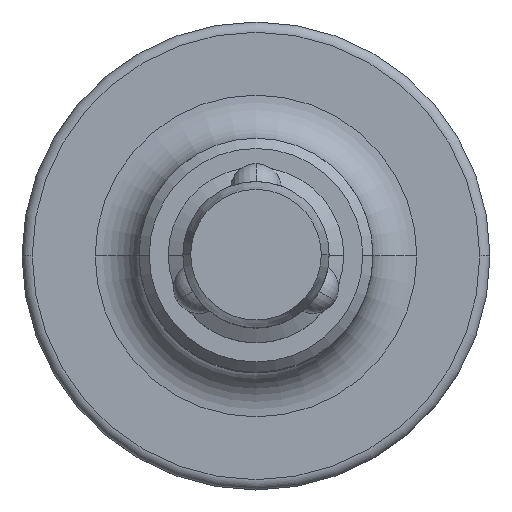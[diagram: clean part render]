
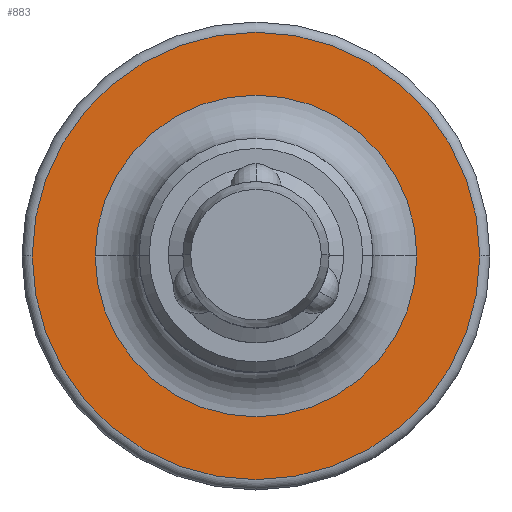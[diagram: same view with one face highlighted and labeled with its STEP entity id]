
A CAD part, top view. The second image highlights one B-rep face of the part: STEP entity #883.
In plain terms, the highlighted planar face has unit normal (0, 0, 1).
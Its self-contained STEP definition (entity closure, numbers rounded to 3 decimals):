
#24 = DIRECTION ( 'NONE',  ( 0., 0., 1. ) ) ;
#30 = CARTESIAN_POINT ( 'NONE',  ( 15.3, 0., -29. ) ) ;
#112 = CARTESIAN_POINT ( 'NONE',  ( 0., 0., -29. ) ) ;
#235 = DIRECTION ( 'NONE',  ( 1., 0., 0. ) ) ;
#311 = CARTESIAN_POINT ( 'NONE',  ( 0., 0., -29. ) ) ;
#339 = ORIENTED_EDGE ( 'NONE', *, *, #1343, .F. ) ;
#377 = CIRCLE ( 'NONE', #1008, 15.3 ) ;
#418 = VERTEX_POINT ( 'NONE', #445 ) ;
#442 = CARTESIAN_POINT ( 'NONE',  ( 0., 11., -29. ) ) ;
#445 = CARTESIAN_POINT ( 'NONE',  ( -11., 0., -29. ) ) ;
#605 = CARTESIAN_POINT ( 'NONE',  ( 0., 0., -29. ) ) ;
#665 = EDGE_LOOP ( 'NONE', ( #1223, #339 ) ) ;
#721 = CARTESIAN_POINT ( 'NONE',  ( 0., 0., -29. ) ) ;
#744 = DIRECTION ( 'NONE',  ( 1., 0., 0. ) ) ;
#747 = DIRECTION ( 'NONE',  ( -1., 0., 0. ) ) ;
#749 = CIRCLE ( 'NONE', #1287, 11. ) ;
#769 = CIRCLE ( 'NONE', #1051, 15.3 ) ;
#883 = ADVANCED_FACE ( 'NONE', ( #1626, #1033 ), #1190, .F. ) ;
#892 = AXIS2_PLACEMENT_3D ( 'NONE', #442, #1040, #910 ) ;
#905 = DIRECTION ( 'NONE',  ( -1., 0., 0. ) ) ;
#910 = DIRECTION ( 'NONE',  ( -1., 0., 0. ) ) ;
#917 = EDGE_LOOP ( 'NONE', ( #1746, #1852 ) ) ;
#930 = VERTEX_POINT ( 'NONE', #1776 ) ;
#940 = AXIS2_PLACEMENT_3D ( 'NONE', #112, #1141, #235 ) ;
#958 = VERTEX_POINT ( 'NONE', #30 ) ;
#1008 = AXIS2_PLACEMENT_3D ( 'NONE', #311, #24, #747 ) ;
#1027 = EDGE_CURVE ( 'NONE', #930, #418, #749, .T. ) ;
#1033 = FACE_BOUND ( 'NONE', #665, .T. ) ;
#1040 = DIRECTION ( 'NONE',  ( 0., 0., -1. ) ) ;
#1051 = AXIS2_PLACEMENT_3D ( 'NONE', #605, #1621, #905 ) ;
#1141 = DIRECTION ( 'NONE',  ( 0., 0., 1. ) ) ;
#1190 = PLANE ( 'NONE',  #892 ) ;
#1223 = ORIENTED_EDGE ( 'NONE', *, *, #1027, .F. ) ;
#1287 = AXIS2_PLACEMENT_3D ( 'NONE', #721, #1615, #744 ) ;
#1343 = EDGE_CURVE ( 'NONE', #418, #930, #1775, .T. ) ;
#1453 = EDGE_CURVE ( 'NONE', #958, #1619, #769, .T. ) ;
#1615 = DIRECTION ( 'NONE',  ( 0., 0., 1. ) ) ;
#1619 = VERTEX_POINT ( 'NONE', #1828 ) ;
#1621 = DIRECTION ( 'NONE',  ( 0., 0., 1. ) ) ;
#1626 = FACE_OUTER_BOUND ( 'NONE', #917, .T. ) ;
#1733 = EDGE_CURVE ( 'NONE', #1619, #958, #377, .T. ) ;
#1746 = ORIENTED_EDGE ( 'NONE', *, *, #1733, .T. ) ;
#1775 = CIRCLE ( 'NONE', #940, 11. ) ;
#1776 = CARTESIAN_POINT ( 'NONE',  ( 11., 0., -29. ) ) ;
#1828 = CARTESIAN_POINT ( 'NONE',  ( -15.3, 0., -29. ) ) ;
#1852 = ORIENTED_EDGE ( 'NONE', *, *, #1453, .T. ) ;
